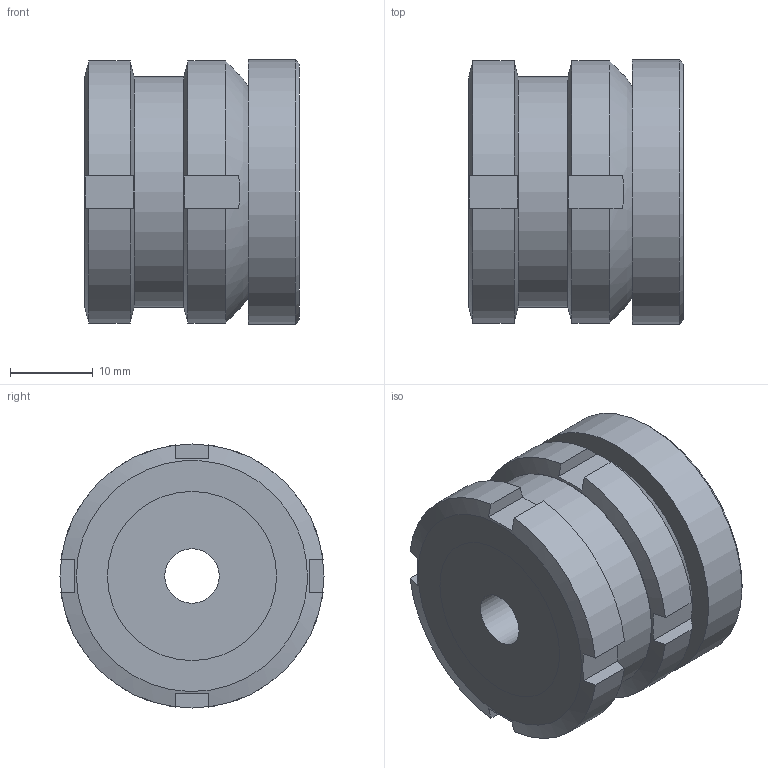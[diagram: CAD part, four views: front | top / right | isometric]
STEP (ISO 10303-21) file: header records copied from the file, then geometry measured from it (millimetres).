
FILE_DESCRIPTION( ( 'STEP AP203' ), '1' );
FILE_NAME( 'C:/Temp/Ganter_Step_05_03_2020/data/3_2/gn350_2/gn_350_2_ni/Stainless Steel-Levelling set GN 350.2-32-6,6-26-NI (0-0).stp', '2020-03-13T05:28:05', ( 'License CC BY-ND 4.0' ), ( 'CADENAS' ), ' ', 'PARTsolutions', ' ' );
FILE_SCHEMA( ( 'CONFIG_CONTROL_DESIGN' ) );
Length unit declared in the file: millimetre
Products named in the file (4): Stainless Steel-Levelling set GN 350.2-32-6,6-26-NI (0-0); _Levelling set GN 350.2-32-6,6-26-ST-G; _Levelling set GN 350.2-32-6,6-26-ST-K; _Levelling set GN 350.2-32-6,6-26-ST-P(0)
Assembly tree (3 placements, depth 2):
  Stainless Steel-Levelling set GN 350.2-32-6,6-26-NI (0-0)
    _Levelling set GN 350.2-32-6,6-26-ST-G
    _Levelling set GN 350.2-32-6,6-26-ST-K
    _Levelling set GN 350.2-32-6,6-26-ST-P(0)
Bounding box: 26 x 32 x 32 mm (x, y, z)
Volume: 17773.3 mm3; surface area: 8684.5 mm2
Topology: 3 solids, 3 shells, 61 faces, 147 edges, 98 vertices
Faces by surface type: plane 36, cylinder 19, cone 4, sphere 2
Full cylindrical faces by diameter (mm): 6.6 x1, 15 x1, 16.473 x1, 17.5 x1, 18.917 x1, 20 x2, 20.5 x2, 28 x1, 32 x1
Entity records: 1905 total; most frequent: CARTESIAN_POINT 459, DIRECTION 272, ORIENTED_EDGE 246, EDGE_CURVE 123, AXIS2_PLACEMENT_3D 120, VERTEX_POINT 91, EDGE_LOOP 90, FACE_OUTER_BOUND 74
